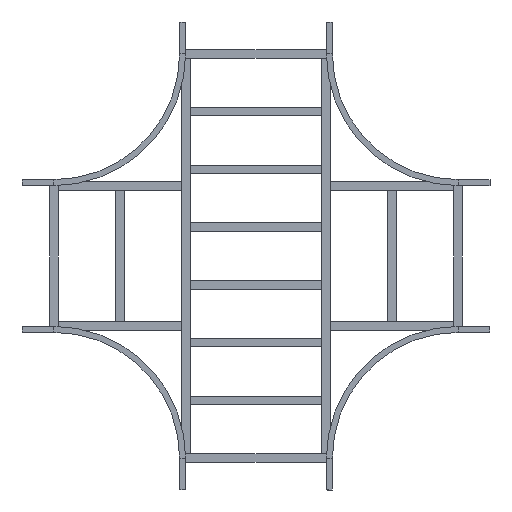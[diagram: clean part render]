
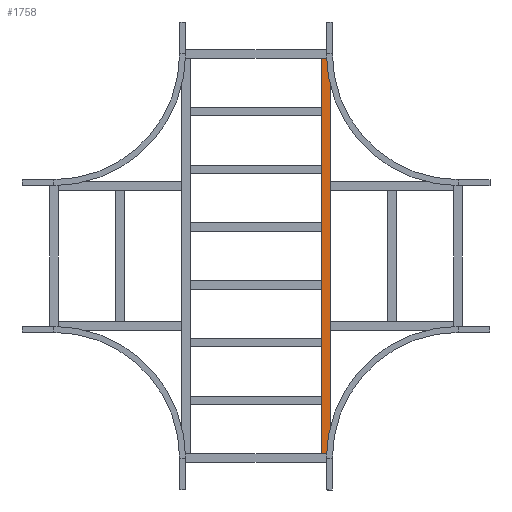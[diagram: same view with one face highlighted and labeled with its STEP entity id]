
A CAD part, front view. The second image highlights one B-rep face of the part: STEP entity #1758.
In plain terms, the highlighted planar face has unit normal (0, -1, 0).
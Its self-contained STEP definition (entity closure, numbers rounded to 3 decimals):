
#41 = DIRECTION ( 'NONE',  ( 0., 0., 1. ) ) ;
#48 = LINE ( 'NONE', #2375, #2099 ) ;
#52 = CARTESIAN_POINT ( 'NONE',  ( 929.75, 0., 20.25 ) ) ;
#148 = VERTEX_POINT ( 'NONE', #2421 ) ;
#212 = DIRECTION ( 'NONE',  ( -1., 0., 0. ) ) ;
#294 = FACE_OUTER_BOUND ( 'NONE', #1882, .T. ) ;
#439 = DIRECTION ( 'NONE',  ( 0., 0., -1. ) ) ;
#489 = DIRECTION ( 'NONE',  ( 0., 0., -1. ) ) ;
#514 = VERTEX_POINT ( 'NONE', #1954 ) ;
#585 = CARTESIAN_POINT ( 'NONE',  ( 929.75, 0., 20.25 ) ) ;
#616 = LINE ( 'NONE', #585, #2618 ) ;
#698 = EDGE_CURVE ( 'NONE', #148, #1854, #616, .T. ) ;
#794 = EDGE_CURVE ( 'NONE', #148, #2598, #48, .T. ) ;
#910 = VECTOR ( 'NONE', #2637, 1000. ) ;
#1015 = ORIENTED_EDGE ( 'NONE', *, *, #2588, .T. ) ;
#1124 = PLANE ( 'NONE',  #2670 ) ;
#1177 = LINE ( 'NONE', #1796, #910 ) ;
#1191 = CARTESIAN_POINT ( 'NONE',  ( -929.75, 0., 20.25 ) ) ;
#1208 = ORIENTED_EDGE ( 'NONE', *, *, #2388, .F. ) ;
#1726 = CARTESIAN_POINT ( 'NONE',  ( 929.75, 0., -20.25 ) ) ;
#1731 = DIRECTION ( 'NONE',  ( 0., 1., 0. ) ) ;
#1758 = ADVANCED_FACE ( 'NONE', ( #294 ), #1124, .F. ) ;
#1796 = CARTESIAN_POINT ( 'NONE',  ( 929.75, 0., -20.25 ) ) ;
#1854 = VERTEX_POINT ( 'NONE', #2455 ) ;
#1882 = EDGE_LOOP ( 'NONE', ( #1015, #1208, #2308, #2656 ) ) ;
#1954 = CARTESIAN_POINT ( 'NONE',  ( -929.75, 0., -20.25 ) ) ;
#2099 = VECTOR ( 'NONE', #439, 1000. ) ;
#2113 = VECTOR ( 'NONE', #489, 1000. ) ;
#2308 = ORIENTED_EDGE ( 'NONE', *, *, #794, .F. ) ;
#2375 = CARTESIAN_POINT ( 'NONE',  ( 929.75, 0., 20.25 ) ) ;
#2388 = EDGE_CURVE ( 'NONE', #2598, #514, #1177, .T. ) ;
#2414 = LINE ( 'NONE', #1191, #2113 ) ;
#2421 = CARTESIAN_POINT ( 'NONE',  ( 929.75, 0., 20.25 ) ) ;
#2455 = CARTESIAN_POINT ( 'NONE',  ( -929.75, 0., 20.25 ) ) ;
#2588 = EDGE_CURVE ( 'NONE', #1854, #514, #2414, .T. ) ;
#2598 = VERTEX_POINT ( 'NONE', #1726 ) ;
#2618 = VECTOR ( 'NONE', #212, 1000. ) ;
#2637 = DIRECTION ( 'NONE',  ( -1., 0., 0. ) ) ;
#2656 = ORIENTED_EDGE ( 'NONE', *, *, #698, .T. ) ;
#2670 = AXIS2_PLACEMENT_3D ( 'NONE', #52, #1731, #41 ) ;
